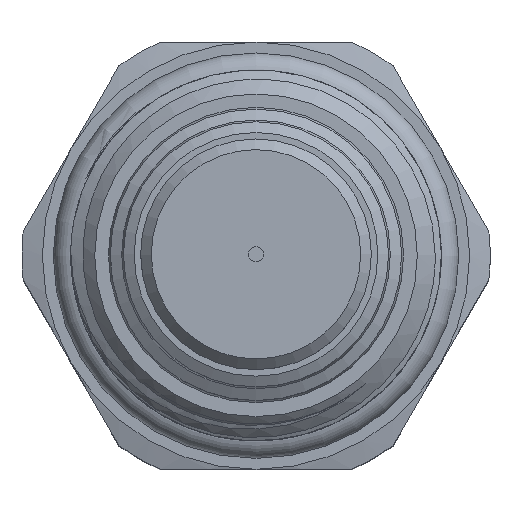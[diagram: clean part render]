
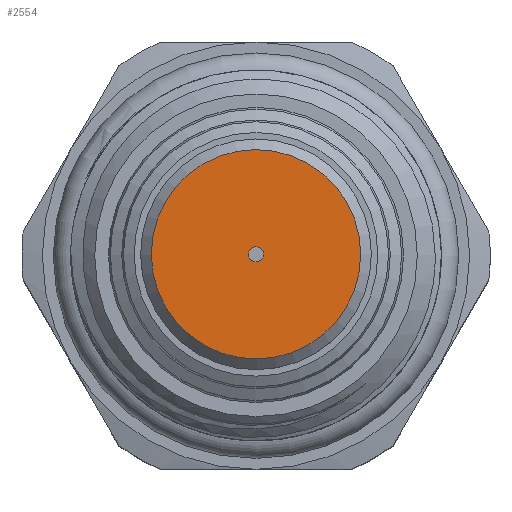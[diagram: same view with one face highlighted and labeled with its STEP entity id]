
A CAD part, top view. The second image highlights one B-rep face of the part: STEP entity #2554.
In plain terms, the highlighted planar face has unit normal (0, 0, 1).
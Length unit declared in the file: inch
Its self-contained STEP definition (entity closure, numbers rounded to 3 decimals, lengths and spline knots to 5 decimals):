
#421=FACE_BOUND('',#745,.T.);
#454=PLANE('',#2850);
#581=FACE_OUTER_BOUND('',#744,.T.);
#744=EDGE_LOOP('',(#2255));
#745=EDGE_LOOP('',(#2256,#2257));
#898=CIRCLE('',#2851,0.245);
#899=CIRCLE('',#2852,0.018);
#900=CIRCLE('',#2853,0.018);
#1165=VERTEX_POINT('',#7607);
#1166=VERTEX_POINT('',#7609);
#1167=VERTEX_POINT('',#7610);
#1533=EDGE_CURVE('',#1165,#1165,#898,.T.);
#1534=EDGE_CURVE('',#1166,#1167,#899,.T.);
#1535=EDGE_CURVE('',#1167,#1166,#900,.T.);
#2255=ORIENTED_EDGE('',*,*,#1533,.F.);
#2256=ORIENTED_EDGE('',*,*,#1534,.T.);
#2257=ORIENTED_EDGE('',*,*,#1535,.T.);
#2554=ADVANCED_FACE('',(#581,#421),#454,.T.);
#2850=AXIS2_PLACEMENT_3D('',#7606,#3471,#3472);
#2851=AXIS2_PLACEMENT_3D('',#7608,#3473,#3474);
#2852=AXIS2_PLACEMENT_3D('',#7611,#3475,#3476);
#2853=AXIS2_PLACEMENT_3D('',#7612,#3477,#3478);
#3471=DIRECTION('center_axis',(0.,0.,
1.));
#3472=DIRECTION('ref_axis',(-0.347,0.938,0.));
#3473=DIRECTION('center_axis',(0.,0.,
-1.));
#3474=DIRECTION('ref_axis',(0.938,0.347,0.));
#3475=DIRECTION('center_axis',(0.,0.,
-1.));
#3476=DIRECTION('ref_axis',(-0.347,0.938,0.));
#3477=DIRECTION('center_axis',(0.,0.,
-1.));
#3478=DIRECTION('ref_axis',(-0.347,0.938,0.));
#7606=CARTESIAN_POINT('Origin',(0.,0.,
2.662));
#7607=CARTESIAN_POINT('',(-0.22975,-0.08509,2.662));
#7608=CARTESIAN_POINT('Origin',(0.,0.,
2.662));
#7609=CARTESIAN_POINT('',(-0.00625,0.01688,2.662));
#7610=CARTESIAN_POINT('',(0.00625,-0.01688,2.662));
#7611=CARTESIAN_POINT('Origin',(0.,0.,
2.662));
#7612=CARTESIAN_POINT('Origin',(0.,0.,
2.662));
